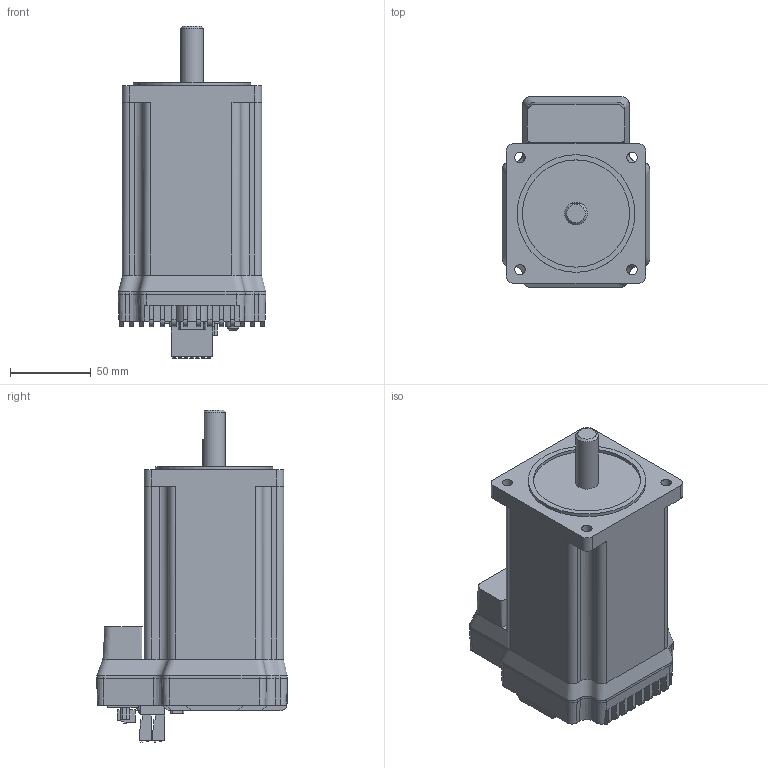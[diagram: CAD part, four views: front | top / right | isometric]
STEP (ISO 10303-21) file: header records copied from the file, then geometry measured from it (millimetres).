
FILE_DESCRIPTION(/* description */ ('STEP AP203'),/* implementation_level */ '2;1');
FILE_NAME(/* name */ 'LMDCM853',/* time_stamp */ '2023-04-19T19:42:56+02:00',/* author */ ('License CC BY-ND 4.0'),/* organization */ ('CADENAS'),/* preprocessor_version */ 'ST-DEVELOPER v19.3',/* originating_system */ 'PARTsolutions',/* authorisation */ ' ');
FILE_SCHEMA (('CONFIG_CONTROL_DESIGN'));
Length unit declared in the file: inch
Products named in the file (3): LMDCM853; 9MN34PT0_0; LMDCM853-dummy
Assembly tree (2 placements, depth 2):
  LMDCM853
    9MN34PT0_0
    LMDCM853-dummy
Bounding box: 91.69 x 118.36 x 206.02 mm (x, y, z)
Volume: 1093091.9 mm3; surface area: 95146.7 mm2
Topology: 1 solids, 1 shells, 751 faces, 2017 edges, 1345 vertices
Faces by surface type: plane 580, cylinder 145, cone 13, torus 10, bspline 2, sphere 1
Full cylindrical faces by diameter (mm): 1.092 x9, 1.524 x16, 3.785 x2, 6.502 x4, 7.112 x1, 9.652 x1, 10.16 x5, 14 x1, 66.548 x1, 73 x1
Entity records: 23282 total; most frequent: CARTESIAN_POINT 4409, ORIENTED_EDGE 3900, DIRECTION 3741, EDGE_CURVE 1950, LINE 1581, VECTOR 1581, VERTEX_POINT 1328, AXIS2_PLACEMENT_3D 1080
